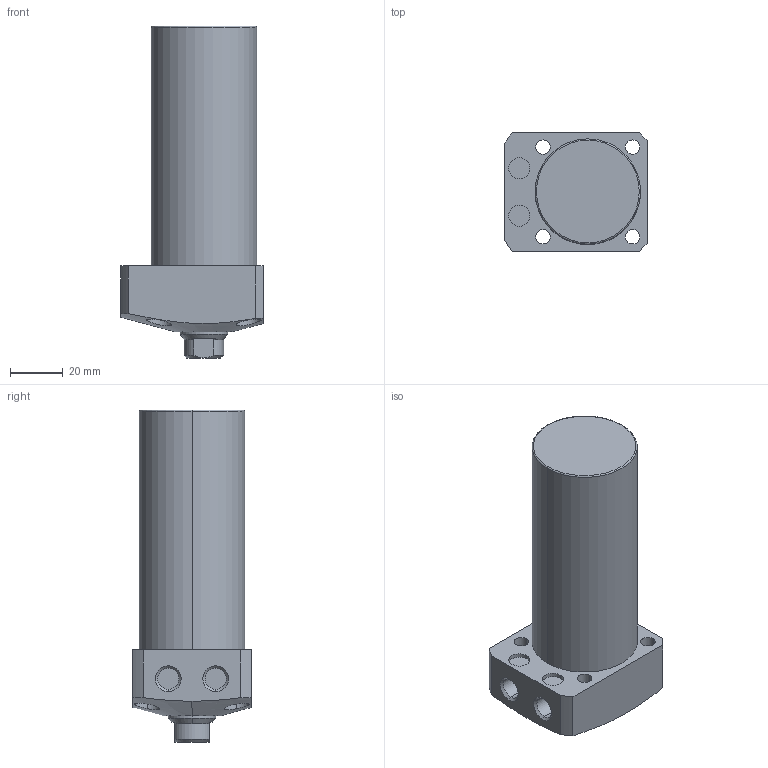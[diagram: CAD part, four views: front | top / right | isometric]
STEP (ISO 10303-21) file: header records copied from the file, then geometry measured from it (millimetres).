
FILE_DESCRIPTION (( 'STEP AP203' ), '1' );
FILE_NAME ('CLL-040CA-065.STEP', '2019-12-21T03:37:07', ( '' ), ( '' ), 'SwSTEP 2.0', 'SolidWorks 2015', '' );
FILE_SCHEMA (( 'CONFIG_CONTROL_DESIGN' ));
Length unit declared in the file: millimetre
Products named in the file (1): CLL-040CA-065
Bounding box: 54 x 45 x 126 mm (x, y, z)
Volume: 164792.3 mm3; surface area: 23537.7 mm2
Topology: 1 solids, 1 shells, 74 faces, 170 edges, 107 vertices
Faces by surface type: cylinder 35, plane 22, cone 15, torus 2
Entity records: 2505 total; most frequent: CARTESIAN_POINT 718, DIRECTION 374, ORIENTED_EDGE 336, EDGE_CURVE 168, AXIS2_PLACEMENT_3D 155, VERTEX_POINT 107, EDGE_LOOP 93, CIRCLE 80
